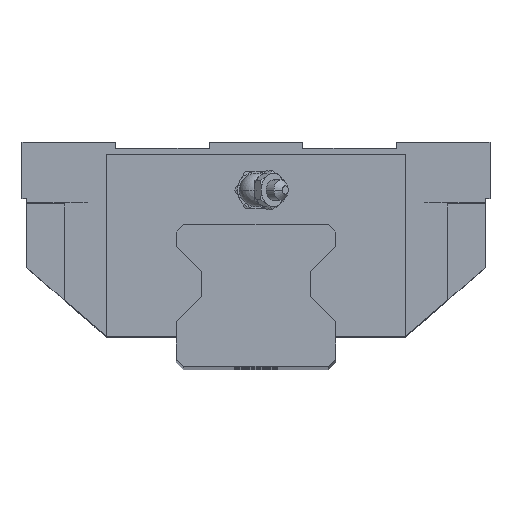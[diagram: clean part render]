
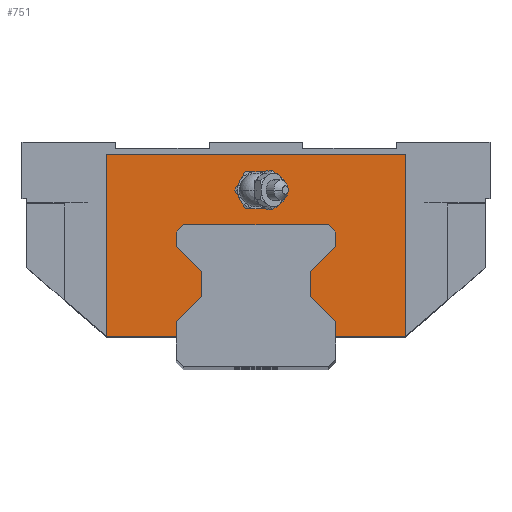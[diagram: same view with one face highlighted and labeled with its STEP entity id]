
A CAD part, top view. The second image highlights one B-rep face of the part: STEP entity #751.
In plain terms, the highlighted planar face has unit normal (0, 0, 1).
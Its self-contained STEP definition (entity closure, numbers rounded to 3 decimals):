
#751=ADVANCED_FACE('',(#1592,#1593),#1594,.T.);
#1592=FACE_BOUND('',#2482,.T.);
#1593=FACE_OUTER_BOUND('',#2483,.T.);
#1594=PLANE('',#2484);
#2482=EDGE_LOOP('',(#4637,#4638));
#2483=EDGE_LOOP('',(#4639,#4640,#4641,#4642,#4643,#4644,#4645,#4646,#4647,#4648,#4649,#4650,#4651,#4652,#4653,#4654,#4655,#4656));
#2484=AXIS2_PLACEMENT_3D('',#4657,#4658,#4659);
#4637=ORIENTED_EDGE('',*,*,#5997,.T.);
#4638=ORIENTED_EDGE('',*,*,#5129,.T.);
#4639=ORIENTED_EDGE('',*,*,#5723,.F.);
#4640=ORIENTED_EDGE('',*,*,#5998,.F.);
#4641=ORIENTED_EDGE('',*,*,#5999,.F.);
#4642=ORIENTED_EDGE('',*,*,#5923,.F.);
#4643=ORIENTED_EDGE('',*,*,#5798,.F.);
#4644=ORIENTED_EDGE('',*,*,#5322,.F.);
#4645=ORIENTED_EDGE('',*,*,#5487,.F.);
#4646=ORIENTED_EDGE('',*,*,#5400,.F.);
#4647=ORIENTED_EDGE('',*,*,#6000,.F.);
#4648=ORIENTED_EDGE('',*,*,#5978,.F.);
#4649=ORIENTED_EDGE('',*,*,#5935,.F.);
#4650=ORIENTED_EDGE('',*,*,#5908,.F.);
#4651=ORIENTED_EDGE('',*,*,#5948,.F.);
#4652=ORIENTED_EDGE('',*,*,#6001,.F.);
#4653=ORIENTED_EDGE('',*,*,#5758,.F.);
#4654=ORIENTED_EDGE('',*,*,#5589,.F.);
#4655=ORIENTED_EDGE('',*,*,#6002,.F.);
#4656=ORIENTED_EDGE('',*,*,#5881,.F.);
#4657=CARTESIAN_POINT('',(0.0,27.343,-38.0));
#4658=DIRECTION('',(0.,0.,1.0));
#4659=DIRECTION('',(1.0,0.0,0.));
#5129=EDGE_CURVE('',#6105,#6103,#6106,.T.);
#5322=EDGE_CURVE('',#6437,#6439,#6440,.T.);
#5400=EDGE_CURVE('',#6568,#6570,#6571,.T.);
#5487=EDGE_CURVE('',#6570,#6437,#6705,.T.);
#5589=EDGE_CURVE('',#6862,#6864,#6865,.T.);
#5723=EDGE_CURVE('',#7059,#7061,#7062,.T.);
#5758=EDGE_CURVE('',#6864,#7111,#7112,.T.);
#5798=EDGE_CURVE('',#6439,#7167,#7168,.T.);
#5881=EDGE_CURVE('',#7061,#7268,#7269,.T.);
#5908=EDGE_CURVE('',#7298,#7300,#7301,.T.);
#5923=EDGE_CURVE('',#7167,#7321,#7322,.T.);
#5935=EDGE_CURVE('',#7300,#7335,#7336,.T.);
#5948=EDGE_CURVE('',#7351,#7298,#7353,.T.);
#5978=EDGE_CURVE('',#7335,#7385,#7386,.T.);
#5997=EDGE_CURVE('',#6103,#6105,#7407,.T.);
#5998=EDGE_CURVE('',#7408,#7059,#7409,.T.);
#5999=EDGE_CURVE('',#7321,#7408,#7410,.T.);
#6000=EDGE_CURVE('',#7385,#6568,#7411,.T.);
#6001=EDGE_CURVE('',#7111,#7351,#7412,.T.);
#6002=EDGE_CURVE('',#7268,#6862,#7413,.T.);
#6103=VERTEX_POINT('',#7530);
#6105=VERTEX_POINT('',#7533);
#6106=CIRCLE('',#7534,3.6);
#6437=VERTEX_POINT('',#8087);
#6439=VERTEX_POINT('',#8090);
#6440=LINE('',#8091,#8092);
#6568=VERTEX_POINT('',#8288);
#6570=VERTEX_POINT('',#8291);
#6571=LINE('',#8292,#8293);
#6705=LINE('',#8614,#8615);
#6862=VERTEX_POINT('',#8839);
#6864=VERTEX_POINT('',#8842);
#6865=LINE('',#8843,#8844);
#7059=VERTEX_POINT('',#9158);
#7061=VERTEX_POINT('',#9161);
#7062=LINE('',#9162,#9163);
#7111=VERTEX_POINT('',#9236);
#7112=LINE('',#9237,#9238);
#7167=VERTEX_POINT('',#9311);
#7168=LINE('',#9312,#9313);
#7268=VERTEX_POINT('',#9467);
#7269=LINE('',#9468,#9469);
#7298=VERTEX_POINT('',#9522);
#7300=VERTEX_POINT('',#9525);
#7301=LINE('',#9526,#9527);
#7321=VERTEX_POINT('',#9552);
#7322=LINE('',#9553,#9554);
#7335=VERTEX_POINT('',#9570);
#7336=LINE('',#9571,#9572);
#7351=VERTEX_POINT('',#9592);
#7353=LINE('',#9595,#9596);
#7385=VERTEX_POINT('',#9647);
#7386=LINE('',#9648,#9649);
#7407=CIRCLE('',#9675,3.6);
#7408=VERTEX_POINT('',#9676);
#7409=LINE('',#9677,#9678);
#7410=LINE('',#9679,#9680);
#7411=LINE('',#9681,#9682);
#7412=LINE('',#9683,#9684);
#7413=LINE('',#9685,#9686);
#7530=CARTESIAN_POINT('',(3.6,37.7,-38.0));
#7533=CARTESIAN_POINT('',(-3.6,37.7,-38.0));
#7534=AXIS2_PLACEMENT_3D('',#9820,#9821,#9822);
#8087=CARTESIAN_POINT('',(11.617,14.903,-38.0));
#8090=CARTESIAN_POINT('',(11.617,20.287,-38.0));
#8091=CARTESIAN_POINT('',(11.617,14.903,-38.0));
#8092=VECTOR('',#10054,1000.0);
#8288=CARTESIAN_POINT('',(17.0,6.5,-38.0));
#8291=CARTESIAN_POINT('',(17.0,9.52,-38.0));
#8292=CARTESIAN_POINT('',(17.0,6.5,-38.0));
#8293=VECTOR('',#10154,1000.0);
#8614=CARTESIAN_POINT('',(17.0,9.52,-38.0));
#8615=VECTOR('',#10233,1000.0);
#8839=CARTESIAN_POINT('',(-11.617,20.287,-38.0));
#8842=CARTESIAN_POINT('',(-11.617,14.903,-38.0));
#8843=CARTESIAN_POINT('',(-11.617,20.287,-38.0));
#8844=VECTOR('',#10414,1000.0);
#9158=CARTESIAN_POINT('',(-15.49,30.2,-38.0));
#9161=CARTESIAN_POINT('',(-17.0,28.69,-38.0));
#9162=CARTESIAN_POINT('',(-15.49,30.2,-38.0));
#9163=VECTOR('',#10584,1000.0);
#9236=CARTESIAN_POINT('',(-17.0,9.52,-38.0));
#9237=CARTESIAN_POINT('',(-11.617,14.903,-38.0));
#9238=VECTOR('',#10624,1000.0);
#9311=CARTESIAN_POINT('',(17.0,25.67,-38.0));
#9312=CARTESIAN_POINT('',(11.617,20.287,-38.0));
#9313=VECTOR('',#10682,1000.0);
#9467=CARTESIAN_POINT('',(-17.0,25.67,-38.0));
#9468=CARTESIAN_POINT('',(-17.0,28.69,-38.0));
#9469=VECTOR('',#10762,1000.0);
#9522=CARTESIAN_POINT('',(-32.0,6.5,-38.0));
#9525=CARTESIAN_POINT('',(-32.0,45.4,-38.0));
#9526=CARTESIAN_POINT('',(-32.0,6.5,-38.0));
#9527=VECTOR('',#10792,1000.0);
#9552=CARTESIAN_POINT('',(17.0,28.69,-38.0));
#9553=CARTESIAN_POINT('',(17.0,25.67,-38.0));
#9554=VECTOR('',#10810,1000.0);
#9570=CARTESIAN_POINT('',(32.0,45.4,-38.0));
#9571=CARTESIAN_POINT('',(-32.0,45.4,-38.0));
#9572=VECTOR('',#10823,1000.0);
#9592=CARTESIAN_POINT('',(-17.0,6.5,-38.0));
#9595=CARTESIAN_POINT('',(-32.0,6.5,-38.0));
#9596=VECTOR('',#10836,1000.0);
#9647=CARTESIAN_POINT('',(32.0,6.5,-38.0));
#9648=CARTESIAN_POINT('',(32.0,45.4,-38.0));
#9649=VECTOR('',#10860,1000.0);
#9675=AXIS2_PLACEMENT_3D('',#10878,#10879,#10880);
#9676=CARTESIAN_POINT('',(15.49,30.2,-38.0));
#9677=CARTESIAN_POINT('',(15.49,30.2,-38.0));
#9678=VECTOR('',#10881,1000.0);
#9679=CARTESIAN_POINT('',(17.0,28.69,-38.0));
#9680=VECTOR('',#10882,1000.0);
#9681=CARTESIAN_POINT('',(32.0,6.5,-38.0));
#9682=VECTOR('',#10883,1000.0);
#9683=CARTESIAN_POINT('',(-17.0,9.52,-38.0));
#9684=VECTOR('',#10884,1000.0);
#9685=CARTESIAN_POINT('',(-17.0,25.67,-38.0));
#9686=VECTOR('',#10885,1000.0);
#9820=CARTESIAN_POINT('',(0.0,37.7,-38.0));
#9821=DIRECTION('',(0.,0.,-1.0));
#9822=DIRECTION('',(1.0,0.,0.));
#10054=DIRECTION('',(0.0,1.0,0.0));
#10154=DIRECTION('',(0.0,1.0,0.0));
#10233=DIRECTION('',(-0.707,0.707,0.0));
#10414=DIRECTION('',(0.0,-1.0,0.0));
#10584=DIRECTION('',(-0.707,-0.707,0.0));
#10624=DIRECTION('',(-0.707,-0.707,0.0));
#10682=DIRECTION('',(0.707,0.707,0.0));
#10762=DIRECTION('',(0.0,-1.0,0.0));
#10792=DIRECTION('',(0.0,1.0,0.0));
#10810=DIRECTION('',(0.0,1.0,0.0));
#10823=DIRECTION('',(1.0,0.0,0.0));
#10836=DIRECTION('',(-1.0,-0.0,-0.0));
#10860=DIRECTION('',(0.0,-1.0,0.0));
#10878=CARTESIAN_POINT('',(0.0,37.7,-38.0));
#10879=DIRECTION('',(0.,0.,-1.0));
#10880=DIRECTION('',(1.0,0.,0.));
#10881=DIRECTION('',(-1.0,0.0,0.0));
#10882=DIRECTION('',(-0.707,0.707,0.0));
#10883=DIRECTION('',(-1.0,0.0,0.0));
#10884=DIRECTION('',(0.0,-1.0,0.0));
#10885=DIRECTION('',(0.707,-0.707,0.0));
